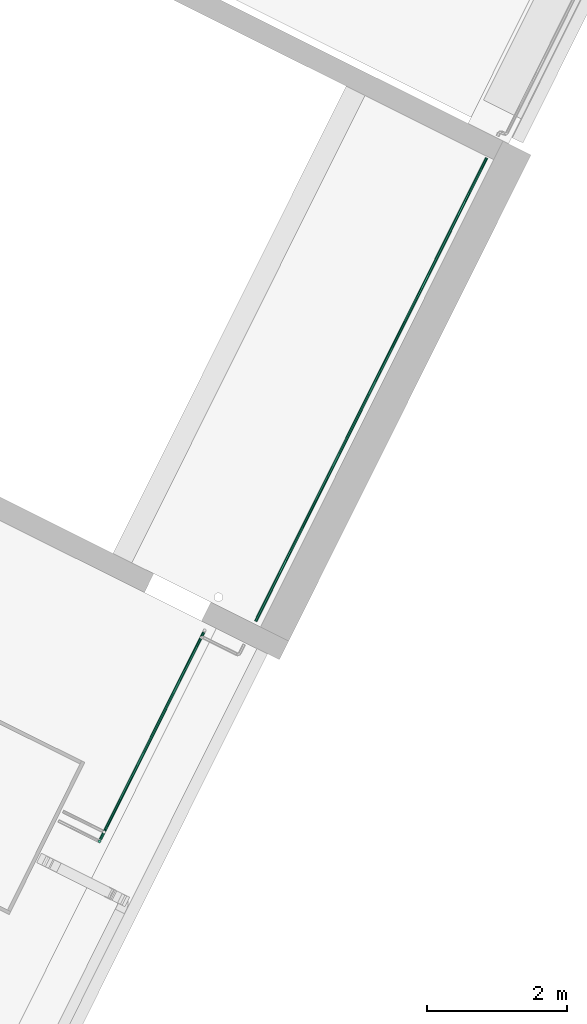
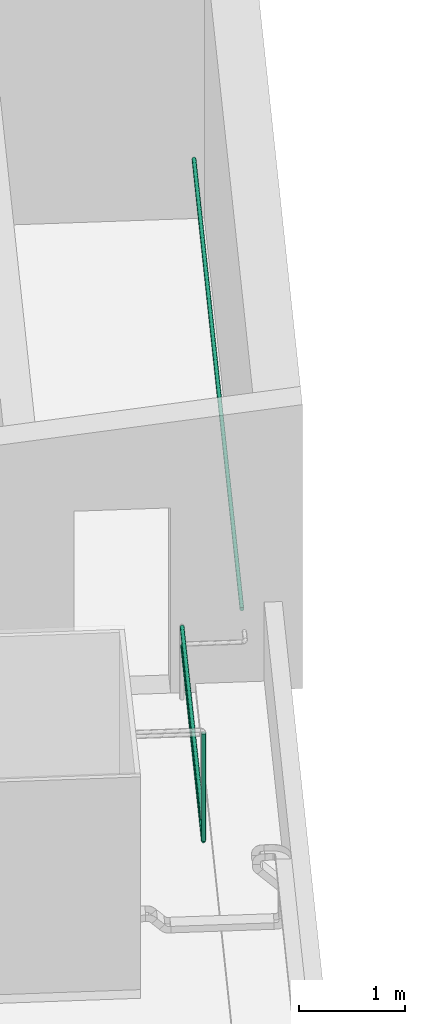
# One storey, part 12 of 34: 4 flow segments.
"""IFC2X3 building model written with IfcOpenShell, lengths in metres."""

import ifcopenshell
import ifcopenshell.guid

model = None  # the IFC model being written
_history = None  # IfcOwnerHistory: only IFC2X3 demands one
_inside = {}  # id of a spatial element -> (the spatial element, [elements in it])
_under = {}  # id of a project, library or spatial element -> (it, [spatial elements below it])
_declared = {}  # id of a project -> (the project, [libraries it declares])
_typed = {}  # id of a type object -> (the type object, [elements of that type])
_made_of = {}  # id of a material, layer set ... -> (it, [elements and type objects made of it])


def new_model(schema):
    """Start an empty IFC model of exactly this schema.

    Asked for "IFC4X3", IfcOpenShell would pick the latest addendum, in which some entities
    have other attributes; the version numbers below select the first issue.
    IFC2X3 requires an IfcOwnerHistory on every rooted entity: one is made here for all.
    """
    global model, _history
    if schema == "IFC4X3":
        model = ifcopenshell.file(schema_version=(4, 3, 0, 0))
    else:
        model = ifcopenshell.file(schema=schema)
    _inside.clear()
    _under.clear()
    _declared.clear()
    _typed.clear()
    _made_of.clear()
    _history = None
    if model.schema == "IFC2X3":
        org = make("IfcOrganization", Name="unknown")
        user = make(
            "IfcPersonAndOrganization",
            ThePerson=make("IfcPerson", FamilyName="unknown"),
            TheOrganization=org,
        )
        app = make(
            "IfcApplication",
            ApplicationDeveloper=org,
            Version="unknown",
            ApplicationFullName="unknown",
            ApplicationIdentifier="unknown",
        )
        _history = make(
            "IfcOwnerHistory",
            OwningUser=user,
            OwningApplication=app,
            ChangeAction="ADDED",
            CreationDate=0,
        )
    return model


def make(cls, **values):
    """One entity of the class cls with the attributes given. An attribute that is None is left unset."""
    return model.create_entity(
        cls, **{name: value for name, value in values.items() if value is not None}
    )


def entity(cls, *values):
    """Any entity or typed value of the class cls, its attributes in the order of the schema. None: left unset."""
    e = model.create_entity(cls)
    for i, value in enumerate(values):
        if value is not None:
            e[i] = value
    return e


def rooted(cls, **values):
    """An entity with a GlobalId (a new one), such as an element, a storey or a relation."""
    return make(cls, GlobalId=ifcopenshell.guid.new(), OwnerHistory=_history, **values)


def si_unit(unit_type, name, prefix=None):
    """IfcSIUnit, for example si_unit("LENGTHUNIT", "METRE", prefix="MILLI")."""
    return make("IfcSIUnit", UnitType=unit_type, Prefix=prefix, Name=name)


def converted_unit(unit_type, name, factor, base, dimensions=None, offset=None):
    """IfcConversionBasedUnit, such as the inch: factor (a typed value) times the base unit."""
    return make(
        "IfcConversionBasedUnit"
        if offset is None
        else "IfcConversionBasedUnitWithOffset",
        ConversionOffset=offset,
        Dimensions=None
        if dimensions is None
        else entity("IfcDimensionalExponents", *dimensions),
        UnitType=unit_type,
        Name=name,
        ConversionFactor=make(
            "IfcMeasureWithUnit", ValueComponent=factor, UnitComponent=base
        ),
    )


def derived_unit(unit_type, elements):
    """IfcDerivedUnit: a product of units, each with its exponent."""
    return make(
        "IfcDerivedUnit",
        Elements=[
            make("IfcDerivedUnitElement", Unit=unit, Exponent=power)
            for unit, power in elements
        ],
        UnitType=unit_type,
    )


def assignment(units):
    """IfcUnitAssignment: the units of a project."""
    return None if units is None else make("IfcUnitAssignment", Units=units)


def point(xyz):
    """IfcCartesianPoint."""
    return None if xyz is None else make("IfcCartesianPoint", Coordinates=xyz)


def direction(xyz):
    """IfcDirection."""
    return None if xyz is None else make("IfcDirection", DirectionRatios=xyz)


def frame(location, z_axis=None, x_axis=None):
    """IfcAxis2Placement3D, a coordinate frame: its origin and axes. An axis left out is left unset."""
    return make(
        "IfcAxis2Placement3D",
        Location=point(location),
        Axis=direction(z_axis),
        RefDirection=direction(x_axis),
    )


def frame_2d(location, x_axis=None):
    """IfcAxis2Placement2D, a coordinate frame in the plane: its origin and x axis."""
    return make(
        "IfcAxis2Placement2D", Location=point(location), RefDirection=direction(x_axis)
    )


def origin():
    """The frame at (0, 0, 0) with its axes left unset."""
    return frame((0.0, 0.0, 0.0))


def origin_2d_with_axis():
    """The frame at (0, 0) in the plane with the x axis (1, 0) written out."""
    return frame_2d((0.0, 0.0), x_axis=(1.0, 0.0))


def place(relative_to, where):
    """IfcLocalPlacement: puts the frame where relative to a parent placement (None: the world)."""
    return make(
        "IfcLocalPlacement", PlacementRelTo=relative_to, RelativePlacement=where
    )


def context(
    kind, dimensions, precision=None, world=None, true_north=None, identifier=None
):
    """IfcGeometricRepresentationContext, for example the 3D "Model" context."""
    return make(
        "IfcGeometricRepresentationContext",
        ContextIdentifier=identifier,
        ContextType=kind,
        CoordinateSpaceDimension=dimensions,
        Precision=precision,
        WorldCoordinateSystem=world,
        TrueNorth=true_north,
    )


def subcontext(parent, identifier, kind, view, scale=None):
    """IfcGeometricRepresentationSubContext, for example "Body" below "Model"."""
    return make(
        "IfcGeometricRepresentationSubContext",
        ContextIdentifier=identifier,
        ContextType=kind,
        ParentContext=parent,
        TargetScale=scale,
        TargetView=view,
    )


def project(units=None, contexts=None):
    """IfcProject with its units and contexts."""
    return rooted(
        "IfcProject",
        Name="project",
        RepresentationContexts=contexts,
        UnitsInContext=assignment(units),
    )


def spatial(cls, under=None, at=None, **own):
    """A site, building, storey or space (cls), placed at a placement, below another one or the project."""
    s = rooted(cls, ObjectPlacement=at, **own)
    if under is not None:
        _under.setdefault(under.id(), (under, []))[1].append(s)
    return s


def profile(cls, at=None, kind="AREA", **sizes):
    """A parametric profile (cls). Its sizes go by their IFC names, for example OverallWidth=200.0."""
    return make(cls, ProfileType=kind, Position=at, **sizes)


def circle(**sizes):
    """IfcCircleProfileDef."""
    return profile("IfcCircleProfileDef", **sizes)


def extrude(swept, where, along, depth):
    """IfcExtrudedAreaSolid: the profile swept, set in the frame where, extruded along a direction by depth."""
    return make(
        "IfcExtrudedAreaSolid",
        SweptArea=swept,
        Position=where,
        ExtrudedDirection=direction(along),
        Depth=depth,
    )


def shape(context_of_items, identifier, shape_type, items):
    """IfcShapeRepresentation: the items that make up one representation, for example the "Body"."""
    return make(
        "IfcShapeRepresentation",
        ContextOfItems=context_of_items,
        RepresentationIdentifier=identifier,
        RepresentationType=shape_type,
        Items=items,
    )


def made_of(thing, what):
    """Note that an element or type object is made of a material, layer set ...; save() writes the relation."""
    if what is not None:
        _made_of.setdefault(what.id(), (what, []))[1].append(thing)
    return thing


def type_object(cls, material=None, **own):
    """A type object (cls), such as IfcWallType, which elements share."""
    return made_of(rooted(cls, **own), material)


def element(
    cls,
    number,
    at=None,
    inside=None,
    cuts=None,
    type_object=None,
    material=None,
    context=None,
    identifier="Body",
    shape_type=None,
    held_by="IfcProductDefinitionShape",
    body=None,
    shapes=None,
    **own,
):
    """One element of the class cls, such as IfcWall. Its Tag is "e" and its number.

    at: its placement. inside: the storey or other place that contains it. cuts: it is an
    opening in that element (IfcRelVoidsElement). A single representation is given by context,
    identifier, shape_type and body (its items); several are given by shapes. held_by: the class
    of the entity that holds the representations. save() writes the other relations.
    """
    e = rooted(cls, Tag="e%d" % number, ObjectPlacement=at, **own)
    if body is not None:
        shapes = [shape(context, identifier, shape_type, body)]
    if shapes is not None:
        e.Representation = make(held_by, Representations=shapes)
    if inside is not None:
        _inside.setdefault(inside.id(), (inside, []))[1].append(e)
    if cuts is not None:
        rooted(
            "IfcRelVoidsElement", RelatingBuildingElement=cuts, RelatedOpeningElement=e
        )
    if type_object is not None:
        _typed.setdefault(type_object.id(), (type_object, []))[1].append(e)
    return made_of(e, material)


def aggregate(whole, parts):
    """IfcRelAggregates: a whole, such as a stair, and the parts it consists of."""
    return rooted("IfcRelAggregates", RelatingObject=whole, RelatedObjects=parts)


def save(model, path):
    """Write the relations noted so far, then the file.

    IfcRelAggregates (storeys below a building ...), IfcRelContainedInSpatialStructure (elements
    in a storey), IfcRelDefinesByType, IfcRelAssociatesMaterial and IfcRelDeclares: one each for
    every whole, place, type object, material and project.
    """
    for whole, parts in _under.values():
        aggregate(whole, parts)
    for where, things in _inside.values():
        rooted(
            "IfcRelContainedInSpatialStructure",
            RelatedElements=things,
            RelatingStructure=where,
        )
    for kind, things in _typed.values():
        rooted("IfcRelDefinesByType", RelatedObjects=things, RelatingType=kind)
    for what, things in _made_of.values():
        rooted("IfcRelAssociatesMaterial", RelatedObjects=things, RelatingMaterial=what)
    for by, libraries in _declared.values():
        rooted("IfcRelDeclares", RelatingContext=by, RelatedDefinitions=libraries)
    model.write(path)


model = new_model("IFC2X3")

# Units and contexts
model_context = context("Model", 3, precision=1e-05, world=origin(), true_north=direction((0.894925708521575, 0.446215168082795)))
context_of_model = context(None, 3, precision=1e-05, world=origin(), true_north=direction((0.894925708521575, 0.446215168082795)))
body_context = subcontext(model_context, "Body", "Model", "MODEL_VIEW")
ifc_project = project(units=[si_unit("LENGTHUNIT", "METRE"), si_unit("AREAUNIT", "SQUARE_METRE"), si_unit("VOLUMEUNIT", "CUBIC_METRE"), converted_unit("PLANEANGLEUNIT", "DEGREE", entity("IfcRatioMeasure", 0.0174532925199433), si_unit("PLANEANGLEUNIT", "RADIAN"), dimensions=[0, 0, 0, 0, 0, 0, 0]), si_unit("MASSUNIT", "GRAM", prefix="KILO"), si_unit("TIMEUNIT", "SECOND"), si_unit("FREQUENCYUNIT", "HERTZ"), si_unit("THERMODYNAMICTEMPERATUREUNIT", "DEGREE_CELSIUS"), derived_unit("THERMALTRANSMITTANCEUNIT", [(si_unit("MASSUNIT", "GRAM", prefix="KILO"), 1), (si_unit("THERMODYNAMICTEMPERATUREUNIT", "KELVIN"), -1), (si_unit("TIMEUNIT", "SECOND"), -3)]), derived_unit("VOLUMETRICFLOWRATEUNIT", [(si_unit("LENGTHUNIT", "METRE"), 3), (si_unit("TIMEUNIT", "SECOND"), -1)]), si_unit("ELECTRICCURRENTUNIT", "AMPERE"), si_unit("ELECTRICVOLTAGEUNIT", "VOLT"), si_unit("POWERUNIT", "WATT"), si_unit("FORCEUNIT", "NEWTON", prefix="KILO"), si_unit("ILLUMINANCEUNIT", "LUX"), si_unit("LUMINOUSFLUXUNIT", "LUMEN"), si_unit("LUMINOUSINTENSITYUNIT", "CANDELA"), si_unit("PRESSUREUNIT", "PASCAL")], contexts=[model_context, context_of_model])

# Site, building, storey
site_placement = place(None, frame((218.228324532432, 584.720189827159, 0.0), z_axis=(0.0, 0.0, 1.0), x_axis=(0.446215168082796, 0.894925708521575, 0.0)))
site = spatial("IfcSite", under=ifc_project, at=site_placement, Name="Default", CompositionType="ELEMENT")
building_placement = place(site_placement, origin())
building = spatial("IfcBuilding", under=site, at=building_placement, CompositionType="ELEMENT")
storey_placement = place(building_placement, frame((0.0, 0.0, 8.61)))
storey = spatial("IfcBuildingStorey", under=building, at=storey_placement, Name="2 - Piano Secondo", CompositionType="ELEMENT", Elevation=8.61)

# Flow segments
pipe_segment_type = type_object("IfcPipeSegmentType", Name="Tubazione:Antincendio-Tubazione", PredefinedType="NOTDEFINED")
flow_segment_1_placement = place(storey_placement, frame((3.35421497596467, -13.0337562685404, 0.677322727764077)))
element("IfcFlowSegment", 1, at=flow_segment_1_placement, inside=storey, type_object=pipe_segment_type, Name="Tubazione:Antincendio-Tubazione", ObjectType="Tubazione:Antincendio-Tubazione", context=body_context, shape_type="SweptSolid", body=[
    extrude(circle(Radius=0.021082, at=origin_2d_with_axis()), frame((0.0, 0.0226772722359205, 0.0226772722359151), z_axis=(1.0, 0.0, 0.0), x_axis=(0.0, -1.0, 0.0)), (0.0, 0.0, 1.0), 7.42),
])
flow_segment_2_placement = place(storey_placement, frame((-0.486246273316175, -12.4387562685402, 0.731999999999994)))
element("IfcFlowSegment", 2, at=flow_segment_2_placement, inside=storey, type_object=pipe_segment_type, Name="Tubazione:Antincendio-Tubazione", ObjectType="Tubazione:Antincendio-Tubazione", context=body_context, shape_type="SweptSolid", body=[
    extrude(circle(Radius=0.021082, at=origin_2d_with_axis()), frame((0.0226772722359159, 0.0226772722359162, 0.0)), (0.0, 0.0, 1.0), 1.23600000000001),
])
flow_segment_3_placement = place(storey_placement, frame((-0.281569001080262, -12.4387562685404, 0.827322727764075)))
element("IfcFlowSegment", 3, at=flow_segment_3_placement, inside=storey, type_object=pipe_segment_type, Name="Tubazione:Antincendio-Tubazione", ObjectType="Tubazione:Antincendio-Tubazione", context=body_context, shape_type="SweptSolid", body=[
    extrude(circle(Radius=0.021082, at=origin_2d_with_axis()), frame((0.0, 0.0226772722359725, 0.0226772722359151), z_axis=(1.0, 0.0, 0.0), x_axis=(0.0, -1.0, 0.0)), (0.0, 0.0, 1.0), 3.16378397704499),
])
flow_segment_4_placement = place(storey_placement, frame((-0.431569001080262, -12.4387562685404, 0.677322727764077)))
element("IfcFlowSegment", 4, at=flow_segment_4_placement, inside=storey, type_object=pipe_segment_type, Name="Tubazione:Antincendio-Tubazione", ObjectType="Tubazione:Antincendio-Tubazione", context=body_context, shape_type="SweptSolid", body=[
    extrude(circle(Radius=0.021082, at=origin_2d_with_axis()), frame((0.0, 0.0226772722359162, 0.0226772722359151), z_axis=(1.0, 0.0, 0.0), x_axis=(0.0, -1.0, 0.0)), (0.0, 0.0, 1.0), 3.21378397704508),
])

save(model, "model.ifc")
